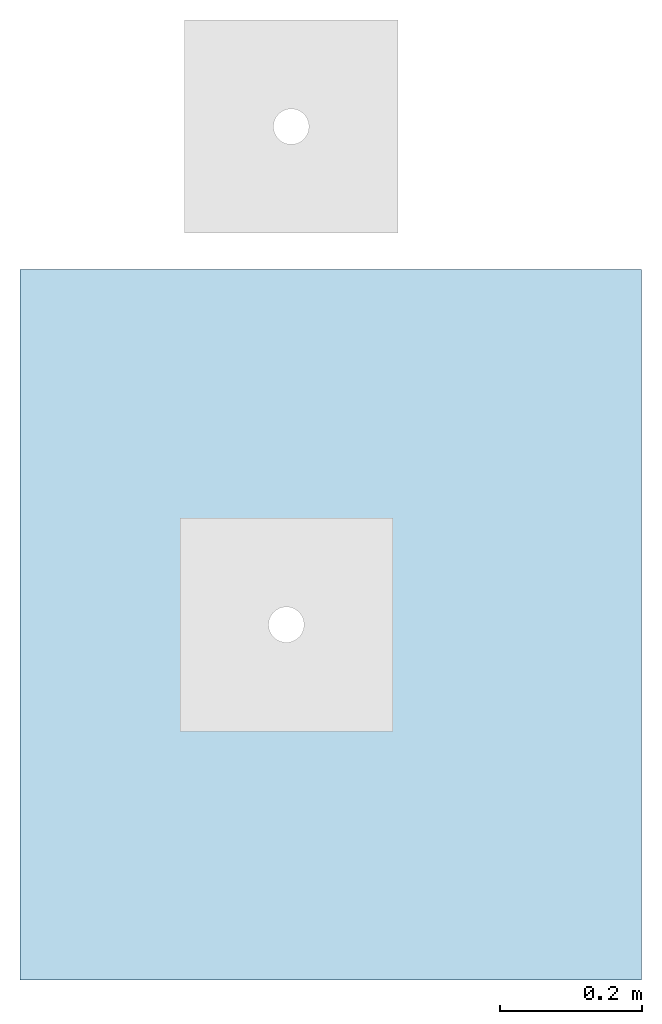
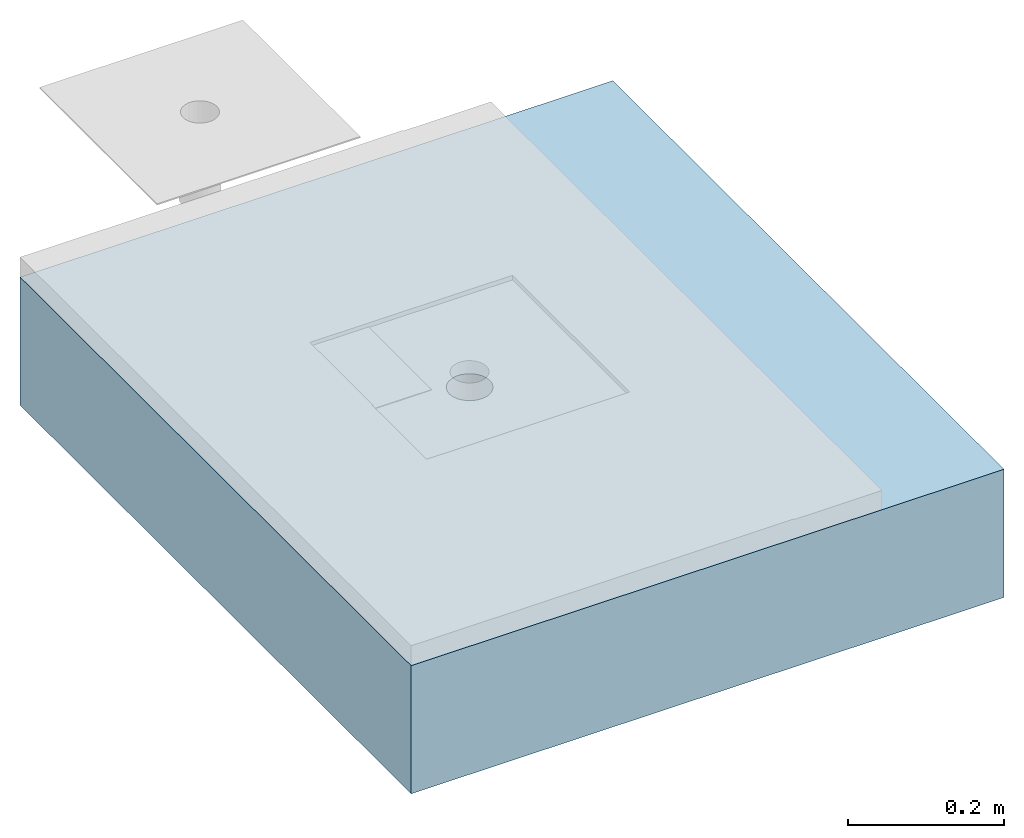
# One storey, part 1 of 3: 1 slab, 1 opening.
"""IFC2X3 building model written with IfcOpenShell, lengths in metres."""

from ifc_helpers import new_model, entity, si_unit, converted_unit, derived_unit, direction, frame, origin, origin_2d_with_axis, place, context, subcontext, project, spatial, rectangle, circle, extrude, material, layer, layer_set, layer_usage, type_object, element, save


model = new_model("IFC2X3")

# Units and contexts
model_context = context("Model", 3, precision=1e-05, world=origin(), true_north=direction((6.123031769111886e-17, 1.0)))
body_context = subcontext(model_context, "Body", "Model", "MODEL_VIEW")
ifc_project = project(units=[si_unit("LENGTHUNIT", "METRE"), si_unit("AREAUNIT", "SQUARE_METRE"), si_unit("VOLUMEUNIT", "CUBIC_METRE"), converted_unit("PLANEANGLEUNIT", "DEGREE", entity("IfcRatioMeasure", 0.017453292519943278), si_unit("PLANEANGLEUNIT", "RADIAN"), dimensions=[0, 0, 0, 0, 0, 0, 0]), si_unit("MASSUNIT", "GRAM", prefix="KILO"), derived_unit("MASSDENSITYUNIT", [(si_unit("MASSUNIT", "GRAM", prefix="KILO"), 1), (si_unit("LENGTHUNIT", "METRE"), -3)]), derived_unit("IONCONCENTRATIONUNIT", [(si_unit("MASSUNIT", "GRAM", prefix="KILO"), 1), (si_unit("LENGTHUNIT", "METRE"), -3)]), derived_unit("MOMENTOFINERTIAUNIT", [(si_unit("LENGTHUNIT", "METRE"), 4)]), si_unit("TIMEUNIT", "SECOND"), si_unit("FREQUENCYUNIT", "HERTZ"), si_unit("THERMODYNAMICTEMPERATUREUNIT", "DEGREE_CELSIUS"), derived_unit("THERMALTRANSMITTANCEUNIT", [(si_unit("MASSUNIT", "GRAM", prefix="KILO"), 1), (si_unit("THERMODYNAMICTEMPERATUREUNIT", "KELVIN"), -1), (si_unit("TIMEUNIT", "SECOND"), -3)]), derived_unit("THERMALCONDUCTANCEUNIT", [(si_unit("MASSUNIT", "GRAM", prefix="KILO"), 1), (si_unit("THERMODYNAMICTEMPERATUREUNIT", "KELVIN"), -1), (si_unit("TIMEUNIT", "SECOND"), -3), (si_unit("LENGTHUNIT", "METRE"), 1)]), derived_unit("VOLUMETRICFLOWRATEUNIT", [(si_unit("LENGTHUNIT", "METRE"), 3), (si_unit("TIMEUNIT", "SECOND"), -1)]), derived_unit("MASSFLOWRATEUNIT", [(si_unit("MASSUNIT", "GRAM", prefix="KILO"), 1), (si_unit("TIMEUNIT", "SECOND"), -1)]), derived_unit("ROTATIONALFREQUENCYUNIT", [(si_unit("TIMEUNIT", "SECOND"), -1)]), si_unit("ELECTRICCURRENTUNIT", "AMPERE"), si_unit("ELECTRICVOLTAGEUNIT", "VOLT"), si_unit("POWERUNIT", "WATT"), si_unit("FORCEUNIT", "NEWTON", prefix="KILO"), si_unit("ILLUMINANCEUNIT", "LUX"), si_unit("LUMINOUSFLUXUNIT", "LUMEN"), si_unit("LUMINOUSINTENSITYUNIT", "CANDELA"), derived_unit("USERDEFINED", [(si_unit("MASSUNIT", "GRAM", prefix="KILO"), -1), (si_unit("LENGTHUNIT", "METRE"), -2), (si_unit("TIMEUNIT", "SECOND"), 3), (si_unit("LUMINOUSFLUXUNIT", "LUMEN"), 1)]), derived_unit("USERDEFINED", [(si_unit("MASSUNIT", "GRAM", prefix="KILO"), 1), (si_unit("TIMEUNIT", "SECOND"), -3), (si_unit("LENGTHUNIT", "METRE"), 3), (si_unit("ELECTRICCURRENTUNIT", "AMPERE"), -2)]), derived_unit("SOUNDPOWERUNIT", [(si_unit("MASSUNIT", "GRAM", prefix="KILO"), 1), (si_unit("TIMEUNIT", "SECOND"), -3), (si_unit("LENGTHUNIT", "METRE"), 2)]), derived_unit("SOUNDPRESSUREUNIT", [(si_unit("MASSUNIT", "GRAM", prefix="KILO"), 1), (si_unit("LENGTHUNIT", "METRE"), -1), (si_unit("TIMEUNIT", "SECOND"), -2)]), derived_unit("LINEARVELOCITYUNIT", [(si_unit("LENGTHUNIT", "METRE"), 1), (si_unit("TIMEUNIT", "SECOND"), -1)]), si_unit("PRESSUREUNIT", "PASCAL"), derived_unit("USERDEFINED", [(si_unit("MASSUNIT", "GRAM", prefix="KILO"), 1), (si_unit("LENGTHUNIT", "METRE"), -2), (si_unit("TIMEUNIT", "SECOND"), -2)]), derived_unit("LINEARFORCEUNIT", [(si_unit("MASSUNIT", "GRAM", prefix="KILO"), 1), (si_unit("TIMEUNIT", "SECOND"), -2)]), derived_unit("PLANARFORCEUNIT", [(si_unit("MASSUNIT", "GRAM", prefix="KILO"), 1), (si_unit("LENGTHUNIT", "METRE"), -1), (si_unit("TIMEUNIT", "SECOND"), -2)]), derived_unit("SPECIFICHEATCAPACITYUNIT", [(si_unit("THERMODYNAMICTEMPERATUREUNIT", "KELVIN"), -1), (si_unit("LENGTHUNIT", "METRE"), 2), (si_unit("TIMEUNIT", "SECOND"), -2)]), derived_unit("HEATINGVALUEUNIT", [(si_unit("LENGTHUNIT", "METRE"), 2), (si_unit("TIMEUNIT", "SECOND"), -2)]), derived_unit("VAPORPERMEABILITYUNIT", [(si_unit("LENGTHUNIT", "METRE"), -1), (si_unit("TIMEUNIT", "SECOND"), 1)]), derived_unit("DYNAMICVISCOSITYUNIT", [(si_unit("MASSUNIT", "GRAM", prefix="KILO"), 1), (si_unit("TIMEUNIT", "SECOND"), -1), (si_unit("LENGTHUNIT", "METRE"), -1)]), derived_unit("THERMALEXPANSIONCOEFFICIENTUNIT", [(si_unit("THERMODYNAMICTEMPERATUREUNIT", "KELVIN"), -1)]), derived_unit("MODULUSOFELASTICITYUNIT", [(si_unit("MASSUNIT", "GRAM", prefix="KILO"), 1), (si_unit("LENGTHUNIT", "METRE"), -1), (si_unit("TIMEUNIT", "SECOND"), -2)]), derived_unit("ISOTHERMALMOISTURECAPACITYUNIT", [(si_unit("LENGTHUNIT", "METRE"), 3), (si_unit("MASSUNIT", "GRAM", prefix="KILO"), -1)]), derived_unit("MOISTUREDIFFUSIVITYUNIT", [(si_unit("TIMEUNIT", "SECOND"), -1), (si_unit("LENGTHUNIT", "METRE"), 2)])], contexts=[model_context])

# Site, building, storey
site_placement = place(None, origin())
site = spatial("IfcSite", under=ifc_project, at=site_placement, Name="Default", CompositionType="ELEMENT")
building_placement = place(site_placement, origin())
building = spatial("IfcBuilding", under=site, at=building_placement, CompositionType="ELEMENT")
storey_placement = place(building_placement, frame((0.0, 0.0, -0.0025237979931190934)))
storey = spatial("IfcBuildingStorey", under=building, at=storey_placement, Name="ARQ Térreo", CompositionType="ELEMENT", Elevation=-0.0025237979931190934)

# Slab, opening
ifc_material = material(Name="#concreto")
ifc_layer = layer(ifc_material, 0.2)
ifc_layer_set = layer_set([ifc_layer], Name="Piso:Piso:LAJE CONCRETO")
ifc_layer_usage = layer_usage(ifc_layer_set, "AXIS3", "POSITIVE", 0.0)
slab_type = type_object("IfcSlabType", Name="Piso:Piso:LAJE CONCRETO", PredefinedType="FLOOR", material=ifc_layer_set)
slab_placement = place(storey_placement, frame((0.5478103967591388, -1.7380570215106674, -0.20000000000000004)))
slab = element("IfcSlab", 1, at=slab_placement, inside=storey, type_object=slab_type, material=ifc_layer_usage, Name="Piso:Piso:LAJE CONCRETO", ObjectType="Piso:Piso:LAJE CONCRETO", PredefinedType="FLOOR", context=body_context, shape_type="SweptSolid", body=[
    extrude(rectangle(XDim=0.8750000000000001, YDim=0.9999999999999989, at=origin_2d_with_axis()), frame((0.43750000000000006, 0.4999999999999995, 0.2), z_axis=(0.0, 0.0, -1.0), x_axis=(-1.0, 0.0, 0.0)), (0.0, 0.0, 1.0), 0.2),
])
opening_placement = place(slab_placement, origin())
element("IfcOpeningElement", 2, at=opening_placement, cuts=slab, Name="Piso:Piso:LAJE CONCRETO", ObjectType="Opening", context=body_context, shape_type="SweptSolid", body=[
    extrude(circle(Radius=0.03, at=origin_2d_with_axis()), frame((0.3749999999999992, 0.4999999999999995, 0.2), z_axis=(0.0, 0.0, -1.0), x_axis=(1.0, 0.0, 0.0)), (0.0, 0.0, 1.0), 0.2),
])

save(model, "model.ifc")
